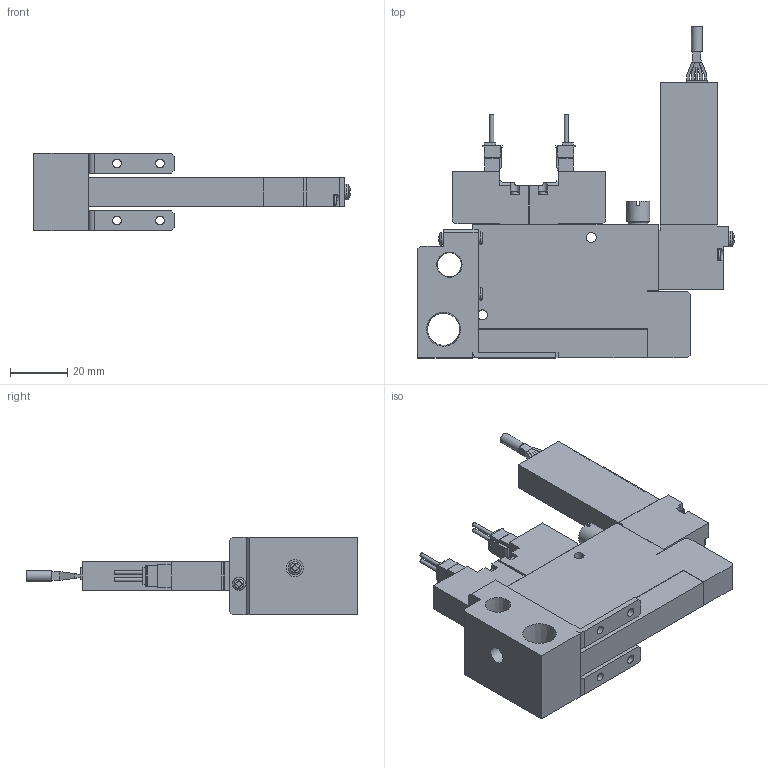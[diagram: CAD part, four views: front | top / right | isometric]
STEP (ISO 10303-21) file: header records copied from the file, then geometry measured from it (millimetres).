
FILE_DESCRIPTION(('STEP AP203'),'1');
FILE_NAME('V9C5SC101_3D.stp','2024-09-04T06:25:27',(' '),(' '),'Spatial InterOp 3D',' ',' ');
FILE_SCHEMA(('CONFIG_CONTROL_DESIGN'));
Length unit declared in the file: millimetre
Products named in the file (5): BSC1M※※V9C5SC101; Solenoid valve S; Pressure Sensor V9; Unit-C; BaseMC10R
Assembly tree (4 placements, depth 2):
  BSC1M※※V9C5SC101
    Solenoid valve S
    Pressure Sensor V9
    Unit-C
    BaseMC10R
Bounding box: 110.35 x 115.8 x 27 mm (x, y, z)
Volume: 76186.1 mm3; surface area: 27609.4 mm2
Topology: 4 solids, 4 shells, 504 faces, 1359 edges, 894 vertices
Faces by surface type: plane 373, cylinder 102, cone 11, sphere 9, torus 9
Full cylindrical faces by diameter (mm): 1.4 x4, 2.5 x2, 3 x8, 3.5 x8, 3.8 x1, 4 x1, 4.134 x2, 4.5 x6, 5.5 x2, 6 x1, 7 x2, 8 x1, 8.422 x1, 11.233 x1
Entity records: 15934 total; most frequent: CARTESIAN_POINT 3232, ORIENTED_EDGE 2532, DIRECTION 2507, EDGE_CURVE 1266, LINE 965, VECTOR 965, VERTEX_POINT 871, AXIS2_PLACEMENT_3D 771
